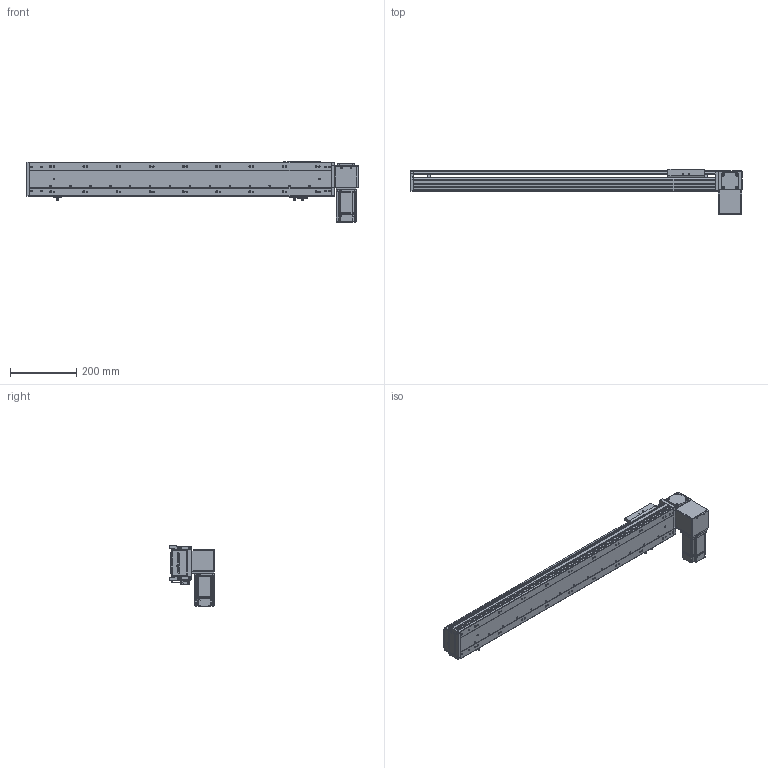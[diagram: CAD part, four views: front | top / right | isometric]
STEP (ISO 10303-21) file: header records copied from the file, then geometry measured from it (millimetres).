
FILE_DESCRIPTION (( 'STEP AP203' ), '1' );
FILE_NAME ('RY100-T-300-DL.SLDASM_700.step', '2024-04-24T01:11:04', ( '盈信电脑' ), ( '东莞市道滘镇水果街19号' ), 'SwSTEP 2.0', 'SolidWorks 2016', '' );
FILE_SCHEMA (( 'CONFIG_CONTROL_DESIGN' ));
Length unit declared in the file: millimetre
Products named in the file (16): RY80-T肮祭謫狟殏俋欶; RY100-T肮祭謫翋盓傅釱; 覜茼ん672; 滅袉蝶18-10; RY100-T左右折电机安装板; RY100-T-300-DL.SLDASM_700; RY100-T肮祭謫臏賑輸; RY100-T翋肮祭謫裔啣2; RY100俋离覜茼え; RY100-T粣創揤踡裔; RY100-T-300-RK倰第菁釱_700; RY100綴裔啣; 1; RY100-T翋肮祭謫裔啣; RY100-T翋肮祭謫粣; RY100-T-300-RK倰第奻裔_700
Assembly tree (18 placements, depth 2):
  RY100-T-300-DL.SLDASM_700
    RY100-T-300-RK倰第菁釱_700
    RY100-T-300-RK倰第奻裔_700
    RY100-T肮祭謫臏賑輸
    RY100綴裔啣
    覜茼ん672  x3
    RY100俋离覜茼え
    RY100-T翋肮祭謫粣
    RY100-T肮祭謫翋盓傅釱
    滅袉蝶18-10  x2
    RY100-T翋肮祭謫裔啣
    1
    RY100-T左右折电机安装板
    RY100-T粣創揤踡裔
    RY100-T翋肮祭謫裔啣2
    RY80-T肮祭謫狟殏俋欶
Bounding box: 1000 x 135.5 x 182.5 mm (x, y, z)
Volume: 2159969.7 mm3; surface area: 874234.2 mm2
Topology: 18 solids, 18 shells, 2261 faces, 6279 edges, 4077 vertices
Faces by surface type: plane 1219, cylinder 821, cone 143, bspline 78
Entity records: 73128 total; most frequent: CARTESIAN_POINT 17752, ORIENTED_EDGE 11390, DIRECTION 10847, EDGE_CURVE 5695, VERTEX_POINT 3745, LINE 3657, VECTOR 3657, AXIS2_PLACEMENT_3D 3595
